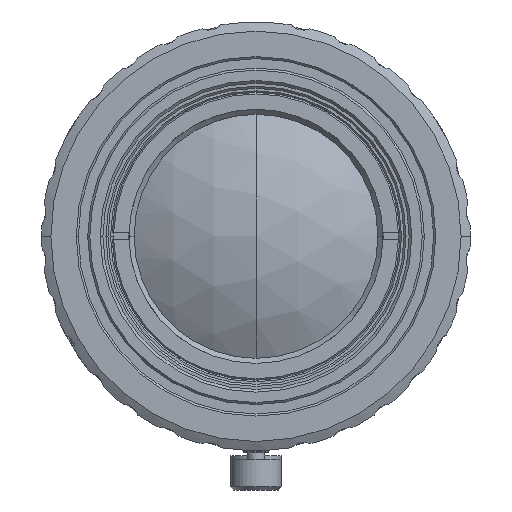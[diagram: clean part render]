
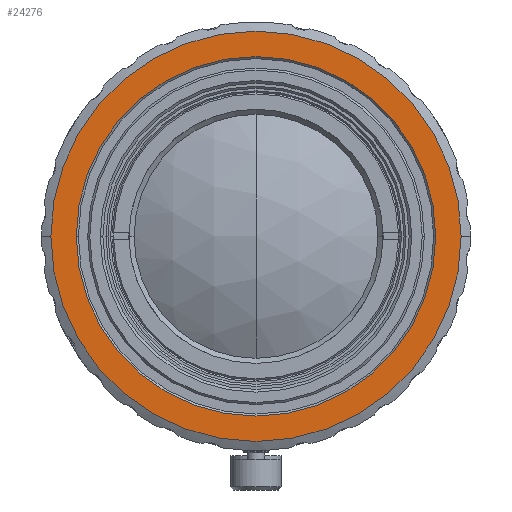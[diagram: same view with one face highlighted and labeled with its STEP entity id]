
A CAD part, front view. The second image highlights one B-rep face of the part: STEP entity #24276.
In plain terms, the highlighted planar face has unit normal (0, -1, 0).
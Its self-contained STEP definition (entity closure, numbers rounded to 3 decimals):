
#1586 = DIRECTION ( 'NONE',  ( 0., -1., 0. ) ) ;
#1784 = DIRECTION ( 'NONE',  ( 0., -1., 0. ) ) ;
#2287 = ORIENTED_EDGE ( 'NONE', *, *, #18881, .T. ) ;
#3248 = CARTESIAN_POINT ( 'NONE',  ( -20.1, -97.34, 0. ) ) ;
#3528 = AXIS2_PLACEMENT_3D ( 'NONE', #35906, #21217, #3632 ) ;
#3632 = DIRECTION ( 'NONE',  ( 1., 0., 0. ) ) ;
#3897 = CARTESIAN_POINT ( 'NONE',  ( 17.612, -97.34, 0. ) ) ;
#4683 = VERTEX_POINT ( 'NONE', #3897 ) ;
#5620 = EDGE_CURVE ( 'NONE', #35638, #37181, #23552, .T. ) ;
#6670 = VERTEX_POINT ( 'NONE', #36624 ) ;
#8727 = AXIS2_PLACEMENT_3D ( 'NONE', #19162, #1586, #22107 ) ;
#9014 = CIRCLE ( 'NONE', #22732, 17.612 ) ;
#9285 = CARTESIAN_POINT ( 'NONE',  ( 20.1, -97.34, 0. ) ) ;
#9812 = ORIENTED_EDGE ( 'NONE', *, *, #5620, .T. ) ;
#9885 = DIRECTION ( 'NONE',  ( 0., -1., 0. ) ) ;
#11456 = DIRECTION ( 'NONE',  ( 0., -1., 0. ) ) ;
#11473 = AXIS2_PLACEMENT_3D ( 'NONE', #27491, #9885, #30456 ) ;
#15613 = EDGE_CURVE ( 'NONE', #4683, #6670, #9014, .T. ) ;
#16207 = ORIENTED_EDGE ( 'NONE', *, *, #15613, .F. ) ;
#16507 = FACE_OUTER_BOUND ( 'NONE', #25052, .T. ) ;
#16635 = EDGE_LOOP ( 'NONE', ( #16207, #16848 ) ) ;
#16848 = ORIENTED_EDGE ( 'NONE', *, *, #23536, .F. ) ;
#18265 = PLANE ( 'NONE',  #3528 ) ;
#18881 = EDGE_CURVE ( 'NONE', #37181, #35638, #33345, .T. ) ;
#19162 = CARTESIAN_POINT ( 'NONE',  ( 0., -97.34, 0. ) ) ;
#19341 = CARTESIAN_POINT ( 'NONE',  ( 0., -97.34, 0. ) ) ;
#21217 = DIRECTION ( 'NONE',  ( 0., -1., 0. ) ) ;
#22107 = DIRECTION ( 'NONE',  ( 1., 0., 0. ) ) ;
#22298 = DIRECTION ( 'NONE',  ( 1., 0., 0. ) ) ;
#22732 = AXIS2_PLACEMENT_3D ( 'NONE', #29070, #11456, #32044 ) ;
#23536 = EDGE_CURVE ( 'NONE', #6670, #4683, #37788, .T. ) ;
#23552 = CIRCLE ( 'NONE', #8727, 20.1 ) ;
#24156 = AXIS2_PLACEMENT_3D ( 'NONE', #19341, #1784, #22298 ) ;
#24276 = ADVANCED_FACE ( 'NONE', ( #16507, #32165 ), #18265, .T. ) ;
#25052 = EDGE_LOOP ( 'NONE', ( #9812, #2287 ) ) ;
#27491 = CARTESIAN_POINT ( 'NONE',  ( 0., -97.34, 0. ) ) ;
#29070 = CARTESIAN_POINT ( 'NONE',  ( 0., -97.34, 0. ) ) ;
#30456 = DIRECTION ( 'NONE',  ( 1., 0., 0. ) ) ;
#32044 = DIRECTION ( 'NONE',  ( 1., 0., 0. ) ) ;
#32165 = FACE_BOUND ( 'NONE', #16635, .T. ) ;
#33345 = CIRCLE ( 'NONE', #11473, 20.1 ) ;
#35638 = VERTEX_POINT ( 'NONE', #3248 ) ;
#35906 = CARTESIAN_POINT ( 'NONE',  ( 0., -97.34, 17.612 ) ) ;
#36624 = CARTESIAN_POINT ( 'NONE',  ( -17.612, -97.34, 0. ) ) ;
#37181 = VERTEX_POINT ( 'NONE', #9285 ) ;
#37788 = CIRCLE ( 'NONE', #24156, 17.612 ) ;
